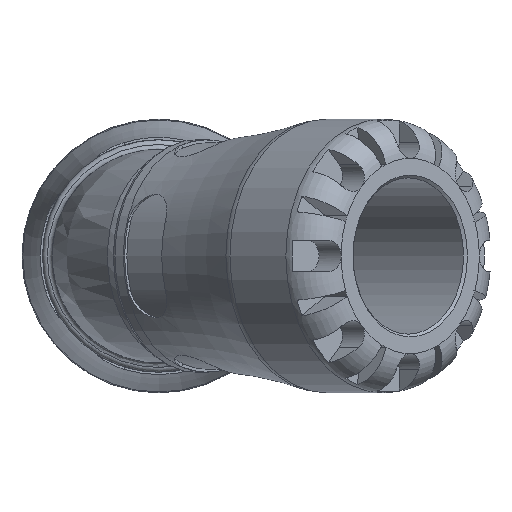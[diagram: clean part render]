
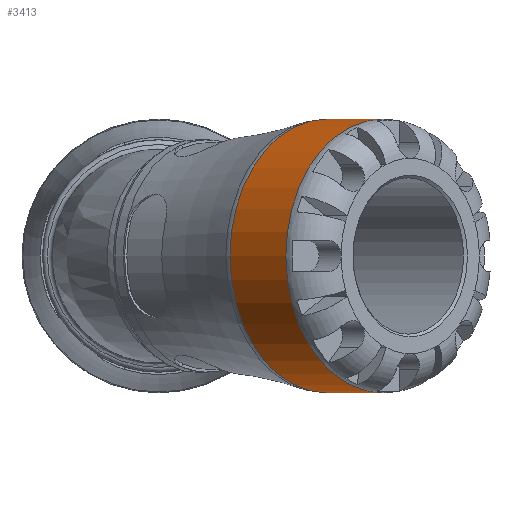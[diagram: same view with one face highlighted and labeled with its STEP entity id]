
A CAD part, left-side view. The second image highlights one B-rep face of the part: STEP entity #3413.
In plain terms, the highlighted cylindrical face has radius 35 mm (diameter 70 mm), a full revolution.
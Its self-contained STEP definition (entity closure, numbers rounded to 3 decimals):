
#161=LINE('',#5630,#331);
#331=VECTOR('',#4262,35.);
#499=CYLINDRICAL_SURFACE('',#3708,35.);
#878=FACE_OUTER_BOUND('',#1075,.T.);
#1075=EDGE_LOOP('',(#2497,#2498,#2499,#2500,#2501,#2502,#2503,#2504));
#1320=CIRCLE('',#3701,35.);
#1325=CIRCLE('',#3706,35.);
#1326=CIRCLE('',#3707,35.);
#1327=CIRCLE('',#3709,35.);
#1328=CIRCLE('',#3710,35.);
#1329=CIRCLE('',#3711,35.);
#1553=VERTEX_POINT('',#5611);
#1554=VERTEX_POINT('',#5612);
#1558=VERTEX_POINT('',#5621);
#1559=VERTEX_POINT('',#5625);
#1560=VERTEX_POINT('',#5626);
#1561=VERTEX_POINT('',#5628);
#1915=EDGE_CURVE('',#1553,#1554,#1320,.T.);
#1920=EDGE_CURVE('',#1554,#1558,#1325,.T.);
#1921=EDGE_CURVE('',#1558,#1553,#1326,.T.);
#1922=EDGE_CURVE('',#1559,#1560,#1327,.T.);
#1923=EDGE_CURVE('',#1561,#1559,#1328,.T.);
#1924=EDGE_CURVE('',#1561,#1558,#161,.T.);
#1925=EDGE_CURVE('',#1560,#1561,#1329,.T.);
#2497=ORIENTED_EDGE('',*,*,#1922,.F.);
#2498=ORIENTED_EDGE('',*,*,#1923,.F.);
#2499=ORIENTED_EDGE('',*,*,#1924,.T.);
#2500=ORIENTED_EDGE('',*,*,#1920,.F.);
#2501=ORIENTED_EDGE('',*,*,#1915,.F.);
#2502=ORIENTED_EDGE('',*,*,#1921,.F.);
#2503=ORIENTED_EDGE('',*,*,#1924,.F.);
#2504=ORIENTED_EDGE('',*,*,#1925,.F.);
#3413=ADVANCED_FACE('',(#878),#499,.T.);
#3701=AXIS2_PLACEMENT_3D('',#5613,#4242,#4243);
#3706=AXIS2_PLACEMENT_3D('',#5622,#4252,#4253);
#3707=AXIS2_PLACEMENT_3D('',#5623,#4254,#4255);
#3708=AXIS2_PLACEMENT_3D('',#5624,#4256,#4257);
#3709=AXIS2_PLACEMENT_3D('',#5627,#4258,#4259);
#3710=AXIS2_PLACEMENT_3D('',#5629,#4260,#4261);
#3711=AXIS2_PLACEMENT_3D('',#5631,#4263,#4264);
#4242=DIRECTION('center_axis',(0.707,0.707,0.));
#4243=DIRECTION('ref_axis',(-0.707,0.707,0.));
#4252=DIRECTION('center_axis',(0.707,0.707,0.));
#4253=DIRECTION('ref_axis',(-0.707,0.707,0.));
#4254=DIRECTION('center_axis',(0.707,0.707,0.));
#4255=DIRECTION('ref_axis',(-0.707,0.707,0.));
#4256=DIRECTION('center_axis',(-0.707,-0.707,0.));
#4257=DIRECTION('ref_axis',(0.707,-0.707,0.));
#4258=DIRECTION('center_axis',(-0.707,-0.707,0.));
#4259=DIRECTION('ref_axis',(0.,0.,-1.));
#4260=DIRECTION('center_axis',(-0.707,-0.707,0.));
#4261=DIRECTION('ref_axis',(0.,0.,-1.));
#4262=DIRECTION('',(0.707,0.707,0.));
#4263=DIRECTION('center_axis',(-0.707,-0.707,0.));
#4264=DIRECTION('ref_axis',(0.,0.,-1.));
#5611=CARTESIAN_POINT('',(-18.22,-67.717,0.));
#5612=CARTESIAN_POINT('',(-42.968,-42.968,-35.));
#5613=CARTESIAN_POINT('Origin',(-42.968,-42.968,0.));
#5621=CARTESIAN_POINT('',(-67.717,-18.22,0.));
#5622=CARTESIAN_POINT('Origin',(-42.968,-42.968,0.));
#5623=CARTESIAN_POINT('Origin',(-42.968,-42.968,0.));
#5624=CARTESIAN_POINT('Origin',(-49.823,-49.823,0.));
#5625=CARTESIAN_POINT('',(-32.527,-82.024,0.));
#5626=CARTESIAN_POINT('',(-57.276,-57.276,35.));
#5627=CARTESIAN_POINT('Origin',(-57.276,-57.276,0.));
#5628=CARTESIAN_POINT('',(-82.024,-32.527,0.));
#5629=CARTESIAN_POINT('Origin',(-57.276,-57.276,0.));
#5630=CARTESIAN_POINT('',(-74.571,-25.074,0.));
#5631=CARTESIAN_POINT('Origin',(-57.276,-57.276,0.));
